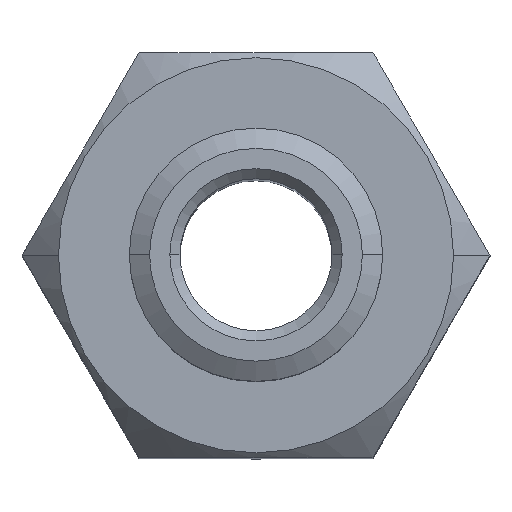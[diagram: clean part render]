
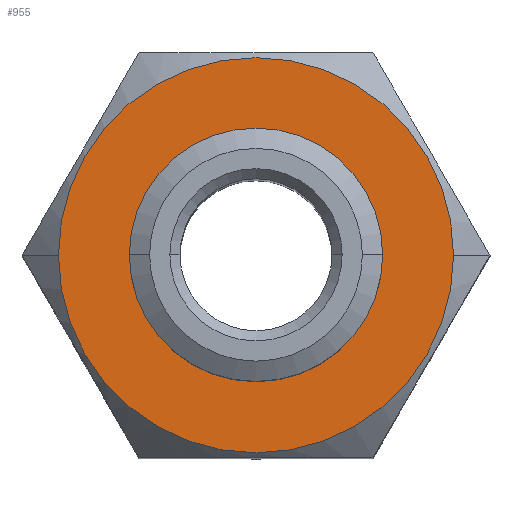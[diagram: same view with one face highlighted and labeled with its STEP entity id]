
A CAD part, top view. The second image highlights one B-rep face of the part: STEP entity #955.
In plain terms, the highlighted planar face has unit normal (0, 0, 1).
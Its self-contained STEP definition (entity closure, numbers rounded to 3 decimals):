
#39 = DIRECTION ( 'NONE',  ( 0., 0., 1. ) ) ;
#44 = CIRCLE ( 'NONE', #1974, 2. ) ;
#136 = EDGE_LOOP ( 'NONE', ( #269, #1912 ) ) ;
#149 = CIRCLE ( 'NONE', #2148, 3.9 ) ;
#256 = EDGE_CURVE ( 'NONE', #893, #768, #543, .T. ) ;
#269 = ORIENTED_EDGE ( 'NONE', *, *, #1955, .T. ) ;
#349 = CARTESIAN_POINT ( 'NONE',  ( 0., 0., -5.5 ) ) ;
#377 = CARTESIAN_POINT ( 'NONE',  ( 0., 0., -5.5 ) ) ;
#438 = CARTESIAN_POINT ( 'NONE',  ( 0., 0., -5.5 ) ) ;
#441 = DIRECTION ( 'NONE',  ( 0., 0., 1. ) ) ;
#543 = CIRCLE ( 'NONE', #773, 2. ) ;
#571 = CARTESIAN_POINT ( 'NONE',  ( 2., 0., -5.5 ) ) ;
#654 = CIRCLE ( 'NONE', #2003, 3.9 ) ;
#667 = DIRECTION ( 'NONE',  ( 0., 0., 1. ) ) ;
#715 = VERTEX_POINT ( 'NONE', #1579 ) ;
#768 = VERTEX_POINT ( 'NONE', #912 ) ;
#773 = AXIS2_PLACEMENT_3D ( 'NONE', #1898, #441, #1380 ) ;
#858 = EDGE_LOOP ( 'NONE', ( #1630, #1432 ) ) ;
#893 = VERTEX_POINT ( 'NONE', #571 ) ;
#912 = CARTESIAN_POINT ( 'NONE',  ( -2., 0., -5.5 ) ) ;
#926 = EDGE_CURVE ( 'NONE', #768, #893, #44, .T. ) ;
#955 = ADVANCED_FACE ( 'NONE', ( #1901, #1157 ), #1692, .T. ) ;
#1157 = FACE_BOUND ( 'NONE', #858, .T. ) ;
#1288 = CARTESIAN_POINT ( 'NONE',  ( 2.1, 0., -5.5 ) ) ;
#1380 = DIRECTION ( 'NONE',  ( 1., 0., 0. ) ) ;
#1432 = ORIENTED_EDGE ( 'NONE', *, *, #926, .F. ) ;
#1512 = CARTESIAN_POINT ( 'NONE',  ( 3.9, 0., -5.5 ) ) ;
#1579 = CARTESIAN_POINT ( 'NONE',  ( -3.9, 0., -5.5 ) ) ;
#1630 = ORIENTED_EDGE ( 'NONE', *, *, #256, .F. ) ;
#1661 = DIRECTION ( 'NONE',  ( 0., 0., 1. ) ) ;
#1674 = DIRECTION ( 'NONE',  ( 1., 0., 0. ) ) ;
#1692 = PLANE ( 'NONE',  #1854 ) ;
#1749 = DIRECTION ( 'NONE',  ( 1., 0., 0. ) ) ;
#1839 = DIRECTION ( 'NONE',  ( 1., 0., 0. ) ) ;
#1854 = AXIS2_PLACEMENT_3D ( 'NONE', #1288, #1661, #1839 ) ;
#1898 = CARTESIAN_POINT ( 'NONE',  ( 0., 0., -5.5 ) ) ;
#1901 = FACE_OUTER_BOUND ( 'NONE', #136, .T. ) ;
#1903 = DIRECTION ( 'NONE',  ( 0., 0., 1. ) ) ;
#1912 = ORIENTED_EDGE ( 'NONE', *, *, #2183, .T. ) ;
#1914 = VERTEX_POINT ( 'NONE', #1512 ) ;
#1955 = EDGE_CURVE ( 'NONE', #715, #1914, #654, .T. ) ;
#1974 = AXIS2_PLACEMENT_3D ( 'NONE', #377, #39, #1674 ) ;
#2003 = AXIS2_PLACEMENT_3D ( 'NONE', #349, #1903, #2082 ) ;
#2082 = DIRECTION ( 'NONE',  ( 1., 0., 0. ) ) ;
#2148 = AXIS2_PLACEMENT_3D ( 'NONE', #438, #667, #1749 ) ;
#2183 = EDGE_CURVE ( 'NONE', #1914, #715, #149, .T. ) ;
